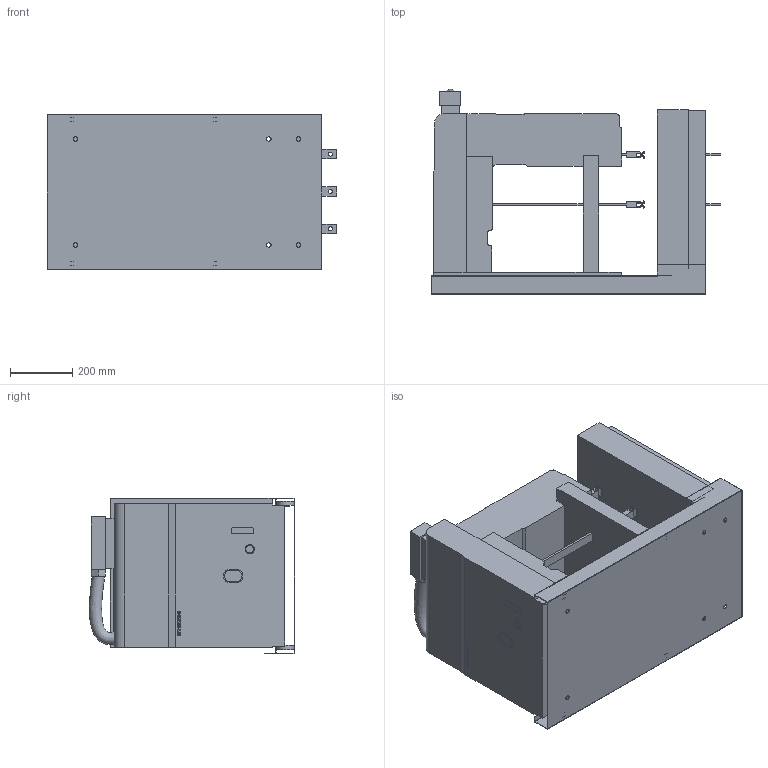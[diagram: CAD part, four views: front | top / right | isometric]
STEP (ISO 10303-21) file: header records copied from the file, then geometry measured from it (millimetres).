
FILE_DESCRIPTION(('STEP AP214'), '1');
FILE_NAME('Âûäâèæíîå èñïîëíåíèå 7,2êÂ, êîðçèíà êëàññà E_F (D6)', '', ('UNSPECIFIED'), ('UNSPECIFIED'), 'ASCON STEP Converter 1.3', 'ASCON Math Kernel', '');
FILE_SCHEMA(('AUTOMOTIVE_DESIGN { 1 0 10303 214 3 1 1}'));
Length unit declared in the file: millimetre
Bounding box: 928.5 x 658.78 x 500.01 mm (x, y, z)
Volume: 123845206.7 mm3; surface area: 4286465.1 mm2
Topology: 2 solids, 2 shells, 396 faces, 1084 edges, 718 vertices
Faces by surface type: plane 305, cylinder 64, extrusion 26, bspline 1
Full cylindrical faces by diameter (mm): 13 x6, 14 x6, 24 x1, 30 x1, 54 x4
Entity records: 17479 total; most frequent: CARTESIAN_POINT 4325, ORIENTED_EDGE 2128, DIRECTION 1917, EDGE_CURVE 1064, VECTOR 899, LINE 873, VERTEX_POINT 716, AXIS2_PLACEMENT_3D 509
